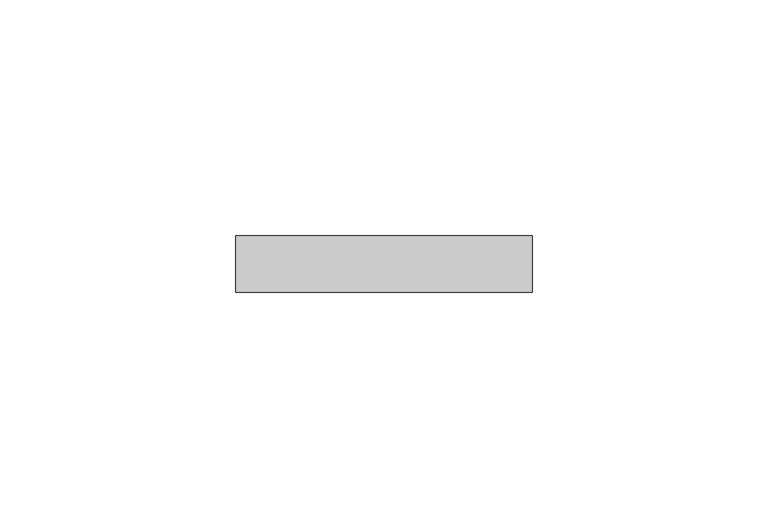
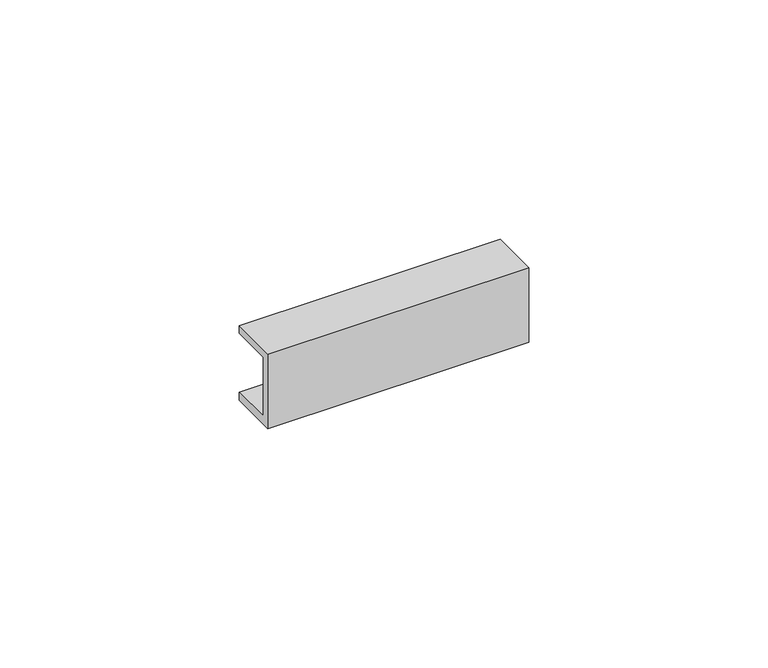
"""IFC4 building model written with IfcOpenShell, lengths in millimetres: proxy geometry, Соединитель_КМС : Соединитель КМС 15х10."""

from ifc_helpers import new_model, si_unit, frame, origin, place, context, project, spatial, polyline, outline, extrude, source, transform, mapped, element, save


def generic_models_4f35b90a(model_context):
    return source(origin(), model_context, "Body", "SweptSolid", [
        extrude(outline(polyline([(-12.0, 42.0), (0.0, 42.0), (0.0, 40.0), (-10.0, 40.0), (-10.0, 25.0), (0.0, 25.0), (0.0, 23.0), (-12.0, 23.0), (-12.0, 42.0)])), frame((0.0, 0.0, 0.0), z_axis=(1.0, 0.0, 0.0), x_axis=(0.0, 1.0, 0.0)), (0.0, 0.0, 1.0), 63.0),
    ])


if __name__ == "__main__":
    model = new_model("IFC4")
    model_context = context("Model", 3, world=origin())
    ifc_project = project(units=[si_unit("LENGTHUNIT", "METRE", prefix="MILLI")], contexts=[model_context])
    site = spatial("IfcSite", under=ifc_project)
    building = spatial("IfcBuilding", under=site)
    placement = place(None, origin())
    generic_models_shape = generic_models_4f35b90a(model_context)
    element("IfcBuildingElementProxy", 1, Name="Соединитель_КМС : Соединитель КМС 15х10", ObjectType="Соединитель_КМС : Соединитель КМС 15х10", at=placement, inside=building, context=model_context, shape_type="MappedRepresentation", body=[
        mapped(generic_models_shape, transform((0.0, 0.0, 0.0), x_axis=(1.0, 0.0, 0.0), y_axis=(0.0, 1.0, 0.0), z_axis=(0.0, 0.0, 1.0))),
    ])
    save(model, "model.ifc")
